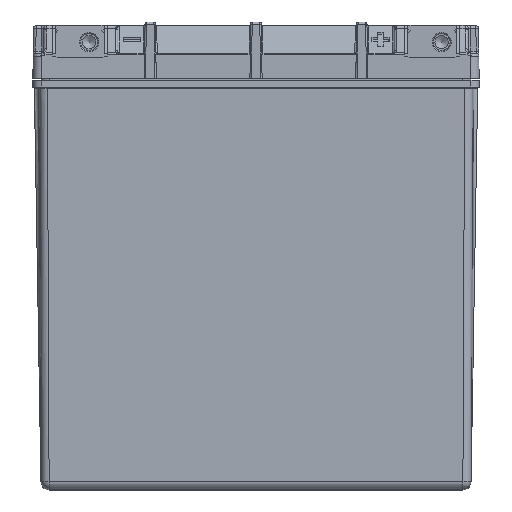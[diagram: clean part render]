
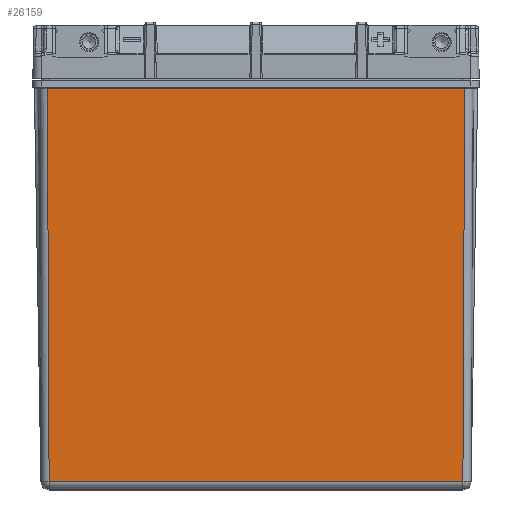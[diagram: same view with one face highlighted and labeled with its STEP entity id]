
A CAD part, top view. The second image highlights one B-rep face of the part: STEP entity #26159.
In plain terms, the highlighted planar face has unit normal (0, -0.004, 1).
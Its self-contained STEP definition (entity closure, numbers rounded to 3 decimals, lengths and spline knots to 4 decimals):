
#5440 = LINE ( 'NONE', #51290, #97880 ) ;
#6462 = ORIENTED_EDGE ( 'NONE', *, *, #17899, .T. ) ;
#8385 = DIRECTION ( 'NONE',  ( 1., 0., 0. ) ) ;
#9773 = VERTEX_POINT ( 'NONE', #60474 ) ;
#10465 = VECTOR ( 'NONE', #86417, 39.3701 ) ;
#16069 = DIRECTION ( 'NONE',  ( -1., 0., 0. ) ) ;
#16566 = CARTESIAN_POINT ( 'NONE',  ( -3.0638, 5.8951, 2.2992 ) ) ;
#17899 = EDGE_CURVE ( 'NONE', #9773, #59742, #91807, .T. ) ;
#23110 = CARTESIAN_POINT ( 'NONE',  ( 3.1558, 5.91, 2.2993 ) ) ;
#26159 = ADVANCED_FACE ( 'NONE', ( #60994 ), #91388, .T. ) ;
#26689 = VERTEX_POINT ( 'NONE', #84262 ) ;
#27629 = EDGE_CURVE ( 'NONE', #59742, #26689, #76317, .T. ) ;
#31565 = DIRECTION ( 'NONE',  ( 0., 1., 0.004 ) ) ;
#37225 = EDGE_LOOP ( 'NONE', ( #67289, #6462, #48038, #96654 ) ) ;
#44981 = DIRECTION ( 'NONE',  ( 0.004, -1., -0.004 ) ) ;
#46054 = DIRECTION ( 'NONE',  ( 0., -0.004, 1. ) ) ;
#48038 = ORIENTED_EDGE ( 'NONE', *, *, #27629, .T. ) ;
#50782 = CARTESIAN_POINT ( 'NONE',  ( -3.0637, 5.8951, 2.2992 ) ) ;
#51290 = CARTESIAN_POINT ( 'NONE',  ( 3.158, 0.1195, 2.274 ) ) ;
#57223 = VECTOR ( 'NONE', #16069, 39.3701 ) ;
#59742 = VERTEX_POINT ( 'NONE', #50782 ) ;
#60474 = CARTESIAN_POINT ( 'NONE',  ( 3.0637, 5.8951, 2.2992 ) ) ;
#60994 = FACE_OUTER_BOUND ( 'NONE', #37225, .T. ) ;
#64985 = LINE ( 'NONE', #71956, #10465 ) ;
#66259 = EDGE_CURVE ( 'NONE', #87809, #9773, #64985, .T. ) ;
#67289 = ORIENTED_EDGE ( 'NONE', *, *, #66259, .T. ) ;
#67295 = EDGE_CURVE ( 'NONE', #26689, #87809, #5440, .T. ) ;
#69230 = AXIS2_PLACEMENT_3D ( 'NONE', #23110, #46054, #31565 ) ;
#71956 = CARTESIAN_POINT ( 'NONE',  ( 3.0638, 5.9104, 2.2993 ) ) ;
#76317 = LINE ( 'NONE', #89335, #90161 ) ;
#84262 = CARTESIAN_POINT ( 'NONE',  ( -3.0385, 0.1195, 2.274 ) ) ;
#86417 = DIRECTION ( 'NONE',  ( 0.004, 1., 0.004 ) ) ;
#87809 = VERTEX_POINT ( 'NONE', #87933 ) ;
#87933 = CARTESIAN_POINT ( 'NONE',  ( 3.0385, 0.1195, 2.274 ) ) ;
#89335 = CARTESIAN_POINT ( 'NONE',  ( -3.0637, 5.8829, 2.2992 ) ) ;
#90161 = VECTOR ( 'NONE', #44981, 39.3701 ) ;
#91388 = PLANE ( 'NONE',  #69230 ) ;
#91807 = LINE ( 'NONE', #16566, #57223 ) ;
#96654 = ORIENTED_EDGE ( 'NONE', *, *, #67295, .T. ) ;
#97880 = VECTOR ( 'NONE', #8385, 39.3701 ) ;
